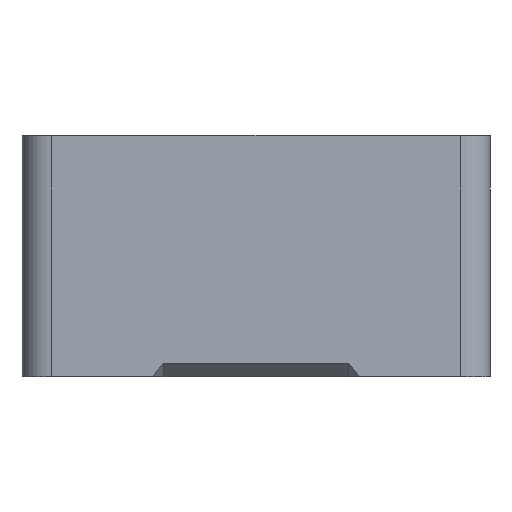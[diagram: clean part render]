
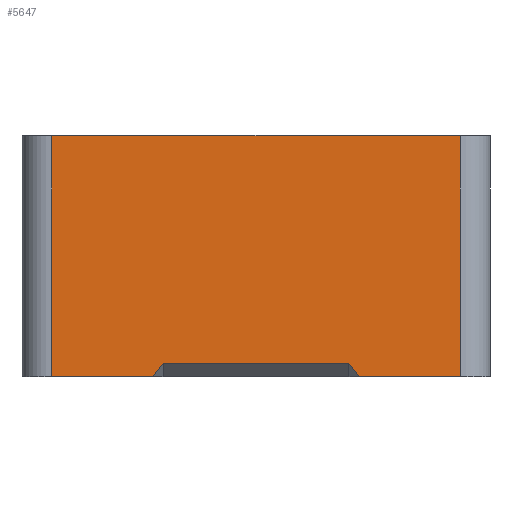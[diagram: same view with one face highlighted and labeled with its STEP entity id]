
A CAD part, front view. The second image highlights one B-rep face of the part: STEP entity #5647.
In plain terms, the highlighted planar face has unit normal (0, -1, 0).
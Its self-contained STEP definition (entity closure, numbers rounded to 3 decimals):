
#562=PLANE('',#6027);
#768=FACE_OUTER_BOUND('',#1068,.T.);
#1068=EDGE_LOOP('',(#4138,#4139,#4140,#4141,#4142,#4143,#4144,#4145,#4146,
#4147));
#1426=LINE('',#9534,#1922);
#1432=LINE('',#9549,#1928);
#1434=LINE('',#9555,#1930);
#1435=LINE('',#9557,#1931);
#1436=LINE('',#9559,#1932);
#1437=LINE('',#9561,#1933);
#1438=LINE('',#9563,#1934);
#1439=LINE('',#9565,#1935);
#1440=LINE('',#9567,#1936);
#1441=LINE('',#9568,#1937);
#1922=VECTOR('',#6859,11.);
#1928=VECTOR('',#6877,10.);
#1930=VECTOR('',#6883,10.);
#1931=VECTOR('',#6884,11.);
#1932=VECTOR('',#6885,10.);
#1933=VECTOR('',#6886,10.344);
#1934=VECTOR('',#6887,11.);
#1935=VECTOR('',#6888,10.344);
#1936=VECTOR('',#6889,10.);
#1937=VECTOR('',#6890,11.);
#2466=VERTEX_POINT('',#9524);
#2468=VERTEX_POINT('',#9530);
#2472=VERTEX_POINT('',#9548);
#2474=VERTEX_POINT('',#9554);
#2475=VERTEX_POINT('',#9556);
#2476=VERTEX_POINT('',#9558);
#2477=VERTEX_POINT('',#9560);
#2478=VERTEX_POINT('',#9562);
#2479=VERTEX_POINT('',#9564);
#2480=VERTEX_POINT('',#9566);
#3108=EDGE_CURVE('',#2466,#2468,#1426,.T.);
#3116=EDGE_CURVE('',#2468,#2472,#1432,.T.);
#3119=EDGE_CURVE('',#2474,#2466,#1434,.T.);
#3120=EDGE_CURVE('',#2475,#2474,#1435,.T.);
#3121=EDGE_CURVE('',#2475,#2476,#1436,.T.);
#3122=EDGE_CURVE('',#2477,#2476,#1437,.T.);
#3123=EDGE_CURVE('',#2477,#2478,#1438,.T.);
#3124=EDGE_CURVE('',#2479,#2478,#1439,.T.);
#3125=EDGE_CURVE('',#2479,#2480,#1440,.T.);
#3126=EDGE_CURVE('',#2472,#2480,#1441,.T.);
#4138=ORIENTED_EDGE('',*,*,#3108,.F.);
#4139=ORIENTED_EDGE('',*,*,#3119,.F.);
#4140=ORIENTED_EDGE('',*,*,#3120,.F.);
#4141=ORIENTED_EDGE('',*,*,#3121,.T.);
#4142=ORIENTED_EDGE('',*,*,#3122,.F.);
#4143=ORIENTED_EDGE('',*,*,#3123,.T.);
#4144=ORIENTED_EDGE('',*,*,#3124,.F.);
#4145=ORIENTED_EDGE('',*,*,#3125,.T.);
#4146=ORIENTED_EDGE('',*,*,#3126,.F.);
#4147=ORIENTED_EDGE('',*,*,#3116,.F.);
#5647=ADVANCED_FACE('',(#768),#562,.T.);
#6027=AXIS2_PLACEMENT_3D('',#9553,#6881,#6882);
#6859=DIRECTION('',(1.,0.,0.));
#6877=DIRECTION('',(0.,0.,-1.));
#6881=DIRECTION('center_axis',(0.,-1.,0.));
#6882=DIRECTION('ref_axis',(0.,0.,-1.));
#6883=DIRECTION('',(0.,0.,1.));
#6884=DIRECTION('',(-1.,0.,0.));
#6885=DIRECTION('',(0.,0.,1.));
#6886=DIRECTION('',(-0.614,0.,-0.789));
#6887=DIRECTION('',(1.,0.,0.));
#6888=DIRECTION('',(-0.614,0.,0.789));
#6889=DIRECTION('',(0.,0.,-1.));
#6890=DIRECTION('',(-1.,0.,0.));
#9524=CARTESIAN_POINT('',(130.715,-117.794,79.8));
#9530=CARTESIAN_POINT('',(283.135,-117.794,79.8));
#9534=CARTESIAN_POINT('',(254.557,-117.794,79.8));
#9548=CARTESIAN_POINT('',(283.135,-117.794,-10.));
#9549=CARTESIAN_POINT('',(283.135,-117.794,0.));
#9553=CARTESIAN_POINT('Origin',(302.188,-117.794,0.));
#9554=CARTESIAN_POINT('',(130.715,-117.794,-10.));
#9555=CARTESIAN_POINT('',(130.715,-117.794,0.));
#9556=CARTESIAN_POINT('',(168.425,-117.794,-10.));
#9557=CARTESIAN_POINT('',(111.662,-117.794,-10.));
#9558=CARTESIAN_POINT('',(168.425,-117.794,-9.95));
#9559=CARTESIAN_POINT('',(168.425,-117.794,-5.));
#9560=CARTESIAN_POINT('',(172.275,-117.794,-5.));
#9561=CARTESIAN_POINT('',(193.61,-117.794,22.429));
#9562=CARTESIAN_POINT('',(241.575,-117.794,-5.));
#9563=CARTESIAN_POINT('',(254.557,-117.794,-5.));
#9564=CARTESIAN_POINT('',(245.425,-117.794,-9.95));
#9565=CARTESIAN_POINT('',(251.671,-117.794,-17.979));
#9566=CARTESIAN_POINT('',(245.425,-117.794,-10.));
#9567=CARTESIAN_POINT('',(245.425,-117.794,-5.));
#9568=CARTESIAN_POINT('',(111.662,-117.794,-10.));
